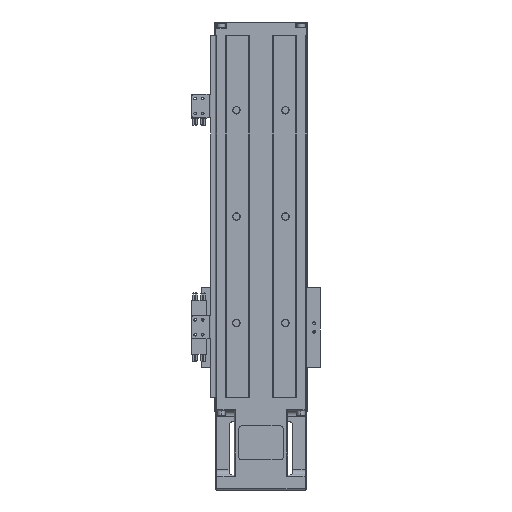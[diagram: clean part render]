
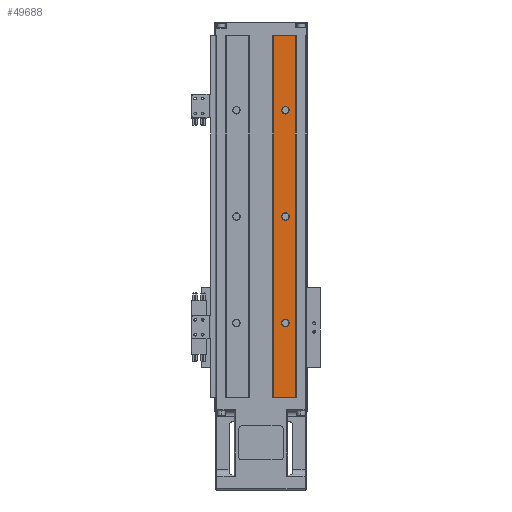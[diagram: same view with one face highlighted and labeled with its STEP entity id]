
A CAD part, front view. The second image highlights one B-rep face of the part: STEP entity #49688.
In plain terms, the highlighted planar face has unit normal (0, -1, 0).
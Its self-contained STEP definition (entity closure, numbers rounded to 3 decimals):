
#188 = LINE ( 'NONE', #12313, #22344 ) ;
#616 = ORIENTED_EDGE ( 'NONE', *, *, #23830, .T. ) ;
#683 = CARTESIAN_POINT ( 'NONE',  ( 11.5, 0., 0. ) ) ;
#834 = DIRECTION ( 'NONE',  ( 0., 0., -1. ) ) ;
#1322 = AXIS2_PLACEMENT_3D ( 'NONE', #49895, #33253, #8212 ) ;
#1914 = CIRCLE ( 'NONE', #35189, 3.5 ) ;
#1935 = EDGE_LOOP ( 'NONE', ( #52638, #28064 ) ) ;
#3332 = ORIENTED_EDGE ( 'NONE', *, *, #25070, .F. ) ;
#4060 = EDGE_LOOP ( 'NONE', ( #616, #10506 ) ) ;
#4883 = CIRCLE ( 'NONE', #6691, 3.5 ) ;
#6286 = CARTESIAN_POINT ( 'NONE',  ( 11.5, 0., 340. ) ) ;
#6691 = AXIS2_PLACEMENT_3D ( 'NONE', #23973, #32382, #27462 ) ;
#6842 = CARTESIAN_POINT ( 'NONE',  ( 11.5, 0., 340. ) ) ;
#8212 = DIRECTION ( 'NONE',  ( 0., 0., -1. ) ) ;
#8535 = CARTESIAN_POINT ( 'NONE',  ( 23., 0., 66.5 ) ) ;
#9321 = CARTESIAN_POINT ( 'NONE',  ( 23., 0., 70. ) ) ;
#10104 = ORIENTED_EDGE ( 'NONE', *, *, #23679, .T. ) ;
#10506 = ORIENTED_EDGE ( 'NONE', *, *, #36737, .T. ) ;
#11557 = EDGE_CURVE ( 'NONE', #39435, #53715, #23175, .T. ) ;
#12075 = DIRECTION ( 'NONE',  ( 0., 0., -1. ) ) ;
#12313 = CARTESIAN_POINT ( 'NONE',  ( 43., 0., 340. ) ) ;
#12322 = VERTEX_POINT ( 'NONE', #38197 ) ;
#12792 = FACE_BOUND ( 'NONE', #4060, .T. ) ;
#12803 = DIRECTION ( 'NONE',  ( 0., 0., -1. ) ) ;
#14632 = AXIS2_PLACEMENT_3D ( 'NONE', #21522, #50419, #12803 ) ;
#15530 = EDGE_CURVE ( 'NONE', #12322, #18735, #32946, .T. ) ;
#16121 = CIRCLE ( 'NONE', #1322, 3.5 ) ;
#16693 = FACE_BOUND ( 'NONE', #51698, .T. ) ;
#16816 = DIRECTION ( 'NONE',  ( 0., 0., -1. ) ) ;
#16887 = EDGE_CURVE ( 'NONE', #31395, #53764, #188, .T. ) ;
#16981 = VERTEX_POINT ( 'NONE', #51152 ) ;
#18106 = CARTESIAN_POINT ( 'NONE',  ( 32.5, 0., 340. ) ) ;
#18735 = VERTEX_POINT ( 'NONE', #40245 ) ;
#19230 = DIRECTION ( 'NONE',  ( 0., 0., 1. ) ) ;
#20022 = DIRECTION ( 'NONE',  ( 0., 0., -1. ) ) ;
#20222 = CIRCLE ( 'NONE', #14632, 3.5 ) ;
#21522 = CARTESIAN_POINT ( 'NONE',  ( 23., 0., 270. ) ) ;
#21969 = ORIENTED_EDGE ( 'NONE', *, *, #15530, .T. ) ;
#22344 = VECTOR ( 'NONE', #49955, 1000. ) ;
#22422 = CARTESIAN_POINT ( 'NONE',  ( 43., 0., 0. ) ) ;
#23175 = LINE ( 'NONE', #22422, #50003 ) ;
#23477 = AXIS2_PLACEMENT_3D ( 'NONE', #45640, #24791, #49485 ) ;
#23679 = EDGE_CURVE ( 'NONE', #18735, #12322, #4883, .T. ) ;
#23830 = EDGE_CURVE ( 'NONE', #49858, #34924, #31621, .T. ) ;
#23973 = CARTESIAN_POINT ( 'NONE',  ( 23., 0., 170. ) ) ;
#24257 = PLANE ( 'NONE',  #53243 ) ;
#24791 = DIRECTION ( 'NONE',  ( 0., 1., 0. ) ) ;
#25070 = EDGE_CURVE ( 'NONE', #31395, #39435, #47149, .T. ) ;
#26636 = EDGE_LOOP ( 'NONE', ( #53285, #3332, #31948, #31443 ) ) ;
#27462 = DIRECTION ( 'NONE',  ( 0., 0., -1. ) ) ;
#28064 = ORIENTED_EDGE ( 'NONE', *, *, #45582, .T. ) ;
#29209 = CARTESIAN_POINT ( 'NONE',  ( 23., 0., 70. ) ) ;
#29860 = CARTESIAN_POINT ( 'NONE',  ( 32.5, 0., 0. ) ) ;
#30787 = VECTOR ( 'NONE', #834, 1000. ) ;
#31395 = VERTEX_POINT ( 'NONE', #38620 ) ;
#31443 = ORIENTED_EDGE ( 'NONE', *, *, #41049, .F. ) ;
#31609 = VECTOR ( 'NONE', #19230, 1000. ) ;
#31621 = CIRCLE ( 'NONE', #48012, 3.5 ) ;
#31948 = ORIENTED_EDGE ( 'NONE', *, *, #16887, .T. ) ;
#32382 = DIRECTION ( 'NONE',  ( 0., 1., 0. ) ) ;
#32907 = VERTEX_POINT ( 'NONE', #54019 ) ;
#32946 = CIRCLE ( 'NONE', #23477, 3.5 ) ;
#33253 = DIRECTION ( 'NONE',  ( 0., 1., 0. ) ) ;
#34924 = VERTEX_POINT ( 'NONE', #51340 ) ;
#35189 = AXIS2_PLACEMENT_3D ( 'NONE', #29209, #41486, #12075 ) ;
#36737 = EDGE_CURVE ( 'NONE', #34924, #49858, #1914, .T. ) ;
#38197 = CARTESIAN_POINT ( 'NONE',  ( 23., 0., 166.5 ) ) ;
#38620 = CARTESIAN_POINT ( 'NONE',  ( 32.5, 0., 340. ) ) ;
#39256 = DIRECTION ( 'NONE',  ( -1., 0., 0. ) ) ;
#39435 = VERTEX_POINT ( 'NONE', #29860 ) ;
#40245 = CARTESIAN_POINT ( 'NONE',  ( 23., 0., 173.5 ) ) ;
#41049 = EDGE_CURVE ( 'NONE', #53715, #53764, #53891, .T. ) ;
#41486 = DIRECTION ( 'NONE',  ( 0., 1., 0. ) ) ;
#43507 = FACE_BOUND ( 'NONE', #1935, .T. ) ;
#45107 = CARTESIAN_POINT ( 'NONE',  ( 43., 0., 340. ) ) ;
#45582 = EDGE_CURVE ( 'NONE', #16981, #32907, #16121, .T. ) ;
#45640 = CARTESIAN_POINT ( 'NONE',  ( 23., 0., 170. ) ) ;
#47149 = LINE ( 'NONE', #18106, #30787 ) ;
#47424 = FACE_OUTER_BOUND ( 'NONE', #26636, .T. ) ;
#47497 = EDGE_CURVE ( 'NONE', #32907, #16981, #20222, .T. ) ;
#48012 = AXIS2_PLACEMENT_3D ( 'NONE', #9321, #50808, #16816 ) ;
#48946 = DIRECTION ( 'NONE',  ( 0., -1., 0. ) ) ;
#49485 = DIRECTION ( 'NONE',  ( 0., 0., -1. ) ) ;
#49688 = ADVANCED_FACE ( 'NONE', ( #47424, #43507, #16693, #12792 ), #24257, .T. ) ;
#49858 = VERTEX_POINT ( 'NONE', #8535 ) ;
#49895 = CARTESIAN_POINT ( 'NONE',  ( 23., 0., 270. ) ) ;
#49955 = DIRECTION ( 'NONE',  ( -1., 0., 0. ) ) ;
#50003 = VECTOR ( 'NONE', #39256, 1000. ) ;
#50419 = DIRECTION ( 'NONE',  ( 0., 1., 0. ) ) ;
#50808 = DIRECTION ( 'NONE',  ( 0., 1., 0. ) ) ;
#51152 = CARTESIAN_POINT ( 'NONE',  ( 23., 0., 273.5 ) ) ;
#51340 = CARTESIAN_POINT ( 'NONE',  ( 23., 0., 73.5 ) ) ;
#51698 = EDGE_LOOP ( 'NONE', ( #21969, #10104 ) ) ;
#52638 = ORIENTED_EDGE ( 'NONE', *, *, #47497, .T. ) ;
#53243 = AXIS2_PLACEMENT_3D ( 'NONE', #45107, #48946, #20022 ) ;
#53285 = ORIENTED_EDGE ( 'NONE', *, *, #11557, .F. ) ;
#53715 = VERTEX_POINT ( 'NONE', #683 ) ;
#53764 = VERTEX_POINT ( 'NONE', #6842 ) ;
#53891 = LINE ( 'NONE', #6286, #31609 ) ;
#54019 = CARTESIAN_POINT ( 'NONE',  ( 23., 0., 266.5 ) ) ;
